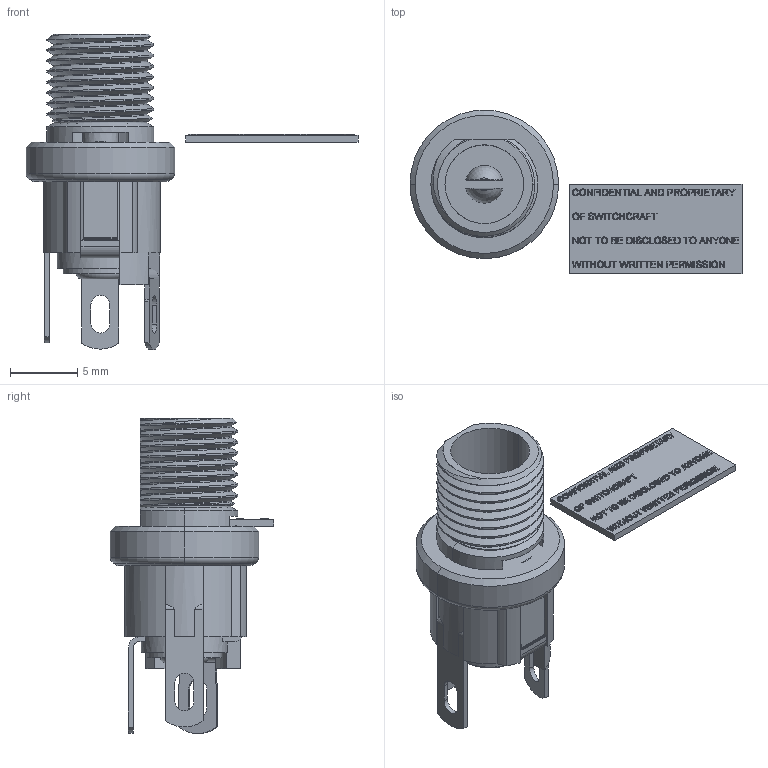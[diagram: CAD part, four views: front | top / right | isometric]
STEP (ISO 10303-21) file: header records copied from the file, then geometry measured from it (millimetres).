
FILE_DESCRIPTION (( 'STEP AP214' ), '1' );
FILE_NAME ('L712A.STEP', '2010-03-12T15:46:39', ( ' ' ), ( ' ' ), 'SwSTEP 2.0', 'SolidWorks 2008', '' );
FILE_SCHEMA (( 'AUTOMOTIVE_DESIGN' ));
Length unit declared in the file: inch
Products named in the file (1): L712A
Bounding box: 24.63 x 12.16 x 23.37 mm (x, y, z)
Volume: 860.3 mm3; surface area: 1290.2 mm2
Topology: 2 solids, 2 shells, 1287 faces, 3460 edges, 2299 vertices
Faces by surface type: plane 810, bspline 348, cylinder 107, cone 16, torus 6
Entity records: 63993 total; most frequent: CARTESIAN_POINT 34283, ORIENTED_EDGE 6920, DIRECTION 4663, EDGE_CURVE 3460, VECTOR 2487, LINE 2487, VERTEX_POINT 2299, EDGE_LOOP 1417
